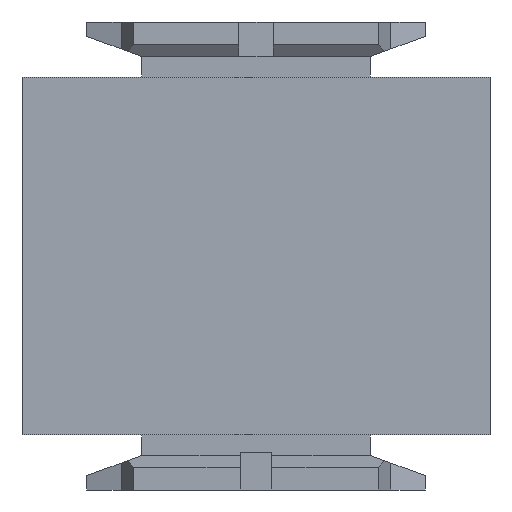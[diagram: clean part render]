
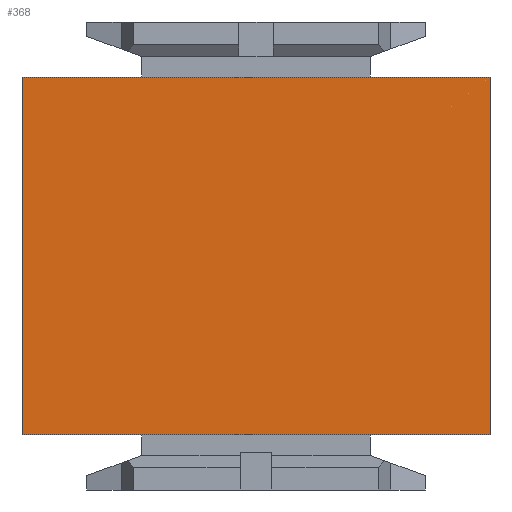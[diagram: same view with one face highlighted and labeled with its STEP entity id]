
A CAD part, front view. The second image highlights one B-rep face of the part: STEP entity #368.
In plain terms, the highlighted planar face has unit normal (0, -1, 0).
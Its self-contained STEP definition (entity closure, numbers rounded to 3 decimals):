
#368 = ADVANCED_FACE( '', ( #731 ), #732, .F. );
#731 = FACE_OUTER_BOUND( '', #1079, .T. );
#732 = PLANE( '', #1080 );
#1079 = EDGE_LOOP( '', ( #1981, #1982, #1983, #1984 ) );
#1080 = AXIS2_PLACEMENT_3D( '', #1985, #1986, #1987 );
#1981 = ORIENTED_EDGE( '', *, *, #2314, .F. );
#1982 = ORIENTED_EDGE( '', *, *, #2191, .F. );
#1983 = ORIENTED_EDGE( '', *, *, #2241, .F. );
#1984 = ORIENTED_EDGE( '', *, *, #2324, .F. );
#1985 = CARTESIAN_POINT( '', ( 0., -17., 0. ) );
#1986 = DIRECTION( '', ( 0., 1., 0. ) );
#1987 = DIRECTION( '', ( 0., 0., 1. ) );
#2191 = EDGE_CURVE( '', #2667, #2668, #2669, .T. );
#2241 = EDGE_CURVE( '', #2742, #2667, #2743, .T. );
#2314 = EDGE_CURVE( '', #2668, #2841, #2842, .T. );
#2324 = EDGE_CURVE( '', #2841, #2742, #2853, .T. );
#2667 = VERTEX_POINT( '', #3328 );
#2668 = VERTEX_POINT( '', #3329 );
#2669 = LINE( '', #3330, #3331 );
#2742 = VERTEX_POINT( '', #3442 );
#2743 = LINE( '', #3443, #3444 );
#2841 = VERTEX_POINT( '', #3588 );
#2842 = LINE( '', #3589, #3590 );
#2853 = LINE( '', #3605, #3606 );
#3328 = CARTESIAN_POINT( '', ( 17., -17., -13. ) );
#3329 = CARTESIAN_POINT( '', ( -17., -17., -13. ) );
#3330 = CARTESIAN_POINT( '', ( 17., -17., -13. ) );
#3331 = VECTOR( '', #3852, 1000. );
#3442 = CARTESIAN_POINT( '', ( 17., -17., 13. ) );
#3443 = CARTESIAN_POINT( '', ( 17., -17., 13. ) );
#3444 = VECTOR( '', #3897, 1000. );
#3588 = CARTESIAN_POINT( '', ( -17., -17., 13. ) );
#3589 = CARTESIAN_POINT( '', ( -17., -17., -13. ) );
#3590 = VECTOR( '', #3962, 1000. );
#3605 = CARTESIAN_POINT( '', ( -17., -17., 13. ) );
#3606 = VECTOR( '', #3967, 1000. );
#3852 = DIRECTION( '', ( -1., 0., 0. ) );
#3897 = DIRECTION( '', ( 0., 0., -1. ) );
#3962 = DIRECTION( '', ( 0., 0., 1. ) );
#3967 = DIRECTION( '', ( 1., 0., 0. ) );
